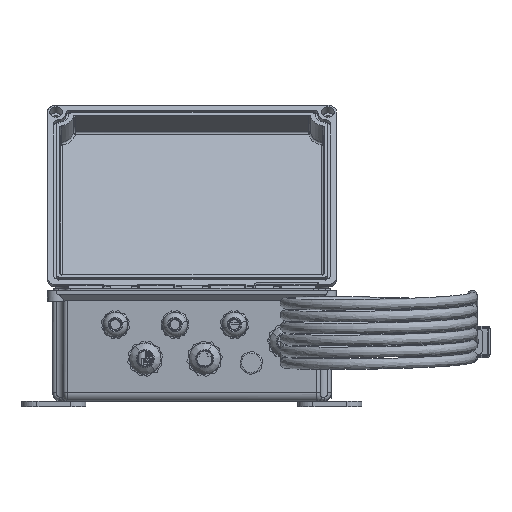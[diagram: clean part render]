
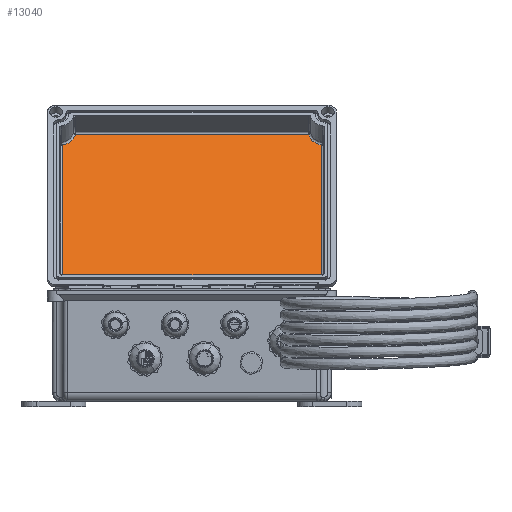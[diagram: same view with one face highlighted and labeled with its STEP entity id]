
A CAD part, top view. The second image highlights one B-rep face of the part: STEP entity #13040.
In plain terms, the highlighted planar face has unit normal (0, 0.582, 0.813).
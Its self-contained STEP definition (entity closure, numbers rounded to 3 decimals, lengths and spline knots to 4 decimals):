
#257 = CARTESIAN_POINT ( 'NONE',  ( 3.6871, 4.338, -7.6753 ) ) ;
#686 = CARTESIAN_POINT ( 'NONE',  ( 3.5272, 4.4469, -7.7533 ) ) ;
#1539 = CARTESIAN_POINT ( 'NONE',  ( 3.4577, 4.5391, -7.8193 ) ) ;
#2728 = CARTESIAN_POINT ( 'NONE',  ( -3.4762, 4.5075, -7.7967 ) ) ;
#3153 = CARTESIAN_POINT ( 'NONE',  ( -3.5832, 4.3961, -7.7169 ) ) ;
#4692 = EDGE_CURVE ( 'NONE', #15485, #74184, #68699, .T. ) ;
#5520 = VERTEX_POINT ( 'NONE', #27702 ) ;
#7838 = CARTESIAN_POINT ( 'NONE',  ( -3.8285, 0.0335, -4.5933 ) ) ;
#8062 = ORIENTED_EDGE ( 'NONE', *, *, #25787, .T. ) ;
#9819 = CARTESIAN_POINT ( 'NONE',  ( 3.4407, 4.5748, -7.8448 ) ) ;
#12302 = CARTESIAN_POINT ( 'NONE',  ( -3.7681, 4.3062, -7.6525 ) ) ;
#13040 = ADVANCED_FACE ( 'NONE', ( #37672 ), #67138, .T. ) ;
#15485 = VERTEX_POINT ( 'NONE', #26759 ) ;
#17373 = LINE ( 'NONE', #125074, #73268 ) ;
#20608 = CARTESIAN_POINT ( 'NONE',  ( -3.4427, 4.5661, -7.8386 ) ) ;
#20988 = VERTEX_POINT ( 'NONE', #24119 ) ;
#21125 = CARTESIAN_POINT ( 'NONE',  ( 3.6949, 4.3346, -7.6729 ) ) ;
#23171 = CARTESIAN_POINT ( 'NONE',  ( -3.4769, 4.5065, -7.796 ) ) ;
#24119 = CARTESIAN_POINT ( 'NONE',  ( 3.8172, 4.2972, -7.6461 ) ) ;
#25787 = EDGE_CURVE ( 'NONE', #35075, #20988, #29750, .T. ) ;
#26759 = CARTESIAN_POINT ( 'NONE',  ( 3.4296, 4.6122, -7.8717 ) ) ;
#27682 = DIRECTION ( 'NONE',  ( 1., 0., 0. ) ) ;
#27702 = CARTESIAN_POINT ( 'NONE',  ( -3.8142, 4.2972, -7.6461 ) ) ;
#29750 = LINE ( 'NONE', #101439, #42176 ) ;
#30279 = CARTESIAN_POINT ( 'NONE',  ( 3.8172, 4.2972, -7.6461 ) ) ;
#30618 = CARTESIAN_POINT ( 'NONE',  ( -3.4322, 4.5935, -7.8582 ) ) ;
#32298 = CARTESIAN_POINT ( 'NONE',  ( -3.6774, 4.3411, -7.6775 ) ) ;
#33146 = CARTESIAN_POINT ( 'NONE',  ( -3.6109, 4.3765, -7.7029 ) ) ;
#35075 = VERTEX_POINT ( 'NONE', #118304 ) ;
#35358 = DIRECTION ( 'NONE',  ( 0., -0.813, 0.582 ) ) ;
#35929 = ORIENTED_EDGE ( 'NONE', *, *, #4692, .T. ) ;
#37672 = FACE_OUTER_BOUND ( 'NONE', #48149, .T. ) ;
#40980 = CARTESIAN_POINT ( 'NONE',  ( -3.4748, 4.5096, -7.7982 ) ) ;
#41063 = CARTESIAN_POINT ( 'NONE',  ( 3.691, 4.3363, -7.6741 ) ) ;
#42176 = VECTOR ( 'NONE', #52040, 39.3701 ) ;
#43503 = B_SPLINE_CURVE_WITH_KNOTS ( 'NONE', 3,
 ( #30279, #119528, #109157, #90964, #90093, #21125, #41063, #120827, #257, #110014, #69286, #61010, #686, #110422, #50623, #119966, #119121, #70587, #59734, #1539, #9819, #79246 ),
 .UNSPECIFIED., .F., .F.,
 ( 4, 1, 1, 1, 1, 2, 2, 2, 1, 1, 1, 1, 2, 2, 4 ),
 ( 0., 0.125, 0.1875, 0.2188, 0.2344, 0.2422, 0.25, 0.5, 0.625, 0.6875, 0.7188, 0.7344, 0.7422, 0.75, 1. ),
 .UNSPECIFIED. ) ;
#45416 = EDGE_CURVE ( 'NONE', #20988, #15485, #43503, .T. ) ;
#47764 = B_SPLINE_CURVE_WITH_KNOTS ( 'NONE', 3,
 ( #99538, #30618, #20608, #61353, #71350, #99965, #40980, #2728, #23171, #92569, #53111, #3153, #33146, #101658, #71762, #112030, #32298, #102079, #52694, #122008, #12302, #102506 ),
 .UNSPECIFIED., .F., .F.,
 ( 4, 1, 1, 1, 1, 2, 2, 2, 1, 1, 1, 1, 2, 2, 4 ),
 ( 0., 0.125, 0.1875, 0.2188, 0.2344, 0.2422, 0.25, 0.5, 0.625, 0.6875, 0.7188, 0.7344, 0.7422, 0.75, 1. ),
 .UNSPECIFIED. ) ;
#47995 = ORIENTED_EDGE ( 'NONE', *, *, #97864, .T. ) ;
#48149 = EDGE_LOOP ( 'NONE', ( #66994, #35929, #103445, #50612, #47995, #8062 ) ) ;
#49209 = DIRECTION ( 'NONE',  ( -1., 0., 0. ) ) ;
#50495 = CARTESIAN_POINT ( 'NONE',  ( -3.8285, 4.6122, -7.8717 ) ) ;
#50612 = ORIENTED_EDGE ( 'NONE', *, *, #127296, .T. ) ;
#50623 = CARTESIAN_POINT ( 'NONE',  ( 3.4914, 4.4902, -7.7843 ) ) ;
#52040 = DIRECTION ( 'NONE',  ( 0., 0.813, -0.582 ) ) ;
#52694 = CARTESIAN_POINT ( 'NONE',  ( -3.6815, 4.3392, -7.6762 ) ) ;
#53111 = CARTESIAN_POINT ( 'NONE',  ( -3.5309, 4.4386, -7.7473 ) ) ;
#55976 = EDGE_CURVE ( 'NONE', #74184, #5520, #47764, .T. ) ;
#55981 = CARTESIAN_POINT ( 'NONE',  ( -3.4266, 4.6122, -7.8717 ) ) ;
#57151 = DIRECTION ( 'NONE',  ( 0., 0.582, 0.813 ) ) ;
#59734 = CARTESIAN_POINT ( 'NONE',  ( 3.4814, 4.5043, -7.7944 ) ) ;
#61010 = CARTESIAN_POINT ( 'NONE',  ( 3.5513, 4.4244, -7.7372 ) ) ;
#61353 = CARTESIAN_POINT ( 'NONE',  ( -3.4589, 4.5353, -7.8166 ) ) ;
#62449 = VECTOR ( 'NONE', #49209, 39.3701 ) ;
#66994 = ORIENTED_EDGE ( 'NONE', *, *, #45416, .T. ) ;
#67138 = PLANE ( 'NONE',  #98178 ) ;
#68699 = LINE ( 'NONE', #50495, #62449 ) ;
#69286 = CARTESIAN_POINT ( 'NONE',  ( 3.6036, 4.3819, -7.7068 ) ) ;
#70587 = CARTESIAN_POINT ( 'NONE',  ( 3.4822, 4.5032, -7.7936 ) ) ;
#71350 = CARTESIAN_POINT ( 'NONE',  ( -3.4679, 4.5203, -7.8058 ) ) ;
#71762 = CARTESIAN_POINT ( 'NONE',  ( -3.6641, 4.3474, -7.682 ) ) ;
#73268 = VECTOR ( 'NONE', #35358, 39.3701 ) ;
#74184 = VERTEX_POINT ( 'NONE', #55981 ) ;
#76050 = LINE ( 'NONE', #7838, #111851 ) ;
#79246 = CARTESIAN_POINT ( 'NONE',  ( 3.4296, 4.6122, -7.8717 ) ) ;
#90093 = CARTESIAN_POINT ( 'NONE',  ( 3.7041, 4.3307, -7.6701 ) ) ;
#90964 = CARTESIAN_POINT ( 'NONE',  ( 3.7226, 4.3234, -7.6648 ) ) ;
#92569 = CARTESIAN_POINT ( 'NONE',  ( -3.5015, 4.4703, -7.7701 ) ) ;
#96931 = VERTEX_POINT ( 'NONE', #109158 ) ;
#97864 = EDGE_CURVE ( 'NONE', #96931, #35075, #76050, .T. ) ;
#98178 = AXIS2_PLACEMENT_3D ( 'NONE', #116524, #57151, #27682 ) ;
#99538 = CARTESIAN_POINT ( 'NONE',  ( -3.4266, 4.6122, -7.8717 ) ) ;
#99965 = CARTESIAN_POINT ( 'NONE',  ( -3.4727, 4.5128, -7.8005 ) ) ;
#101439 = CARTESIAN_POINT ( 'NONE',  ( 3.8172, 0.0219, -4.585 ) ) ;
#101658 = CARTESIAN_POINT ( 'NONE',  ( -3.6459, 4.3566, -7.6886 ) ) ;
#102079 = CARTESIAN_POINT ( 'NONE',  ( -3.6801, 4.3399, -7.6766 ) ) ;
#102506 = CARTESIAN_POINT ( 'NONE',  ( -3.8142, 4.2972, -7.6461 ) ) ;
#103445 = ORIENTED_EDGE ( 'NONE', *, *, #55976, .T. ) ;
#107586 = DIRECTION ( 'NONE',  ( 1., 0., 0. ) ) ;
#109157 = CARTESIAN_POINT ( 'NONE',  ( 3.7604, 4.3102, -7.6554 ) ) ;
#109158 = CARTESIAN_POINT ( 'NONE',  ( -3.8142, 0.0335, -4.5933 ) ) ;
#110014 = CARTESIAN_POINT ( 'NONE',  ( 3.6426, 4.358, -7.6896 ) ) ;
#110422 = CARTESIAN_POINT ( 'NONE',  ( 3.5027, 4.4754, -7.7737 ) ) ;
#111851 = VECTOR ( 'NONE', #107586, 39.3701 ) ;
#112030 = CARTESIAN_POINT ( 'NONE',  ( -3.6734, 4.3429, -7.6788 ) ) ;
#116524 = CARTESIAN_POINT ( 'NONE',  ( -3.8285, 0.0219, -4.585 ) ) ;
#118304 = CARTESIAN_POINT ( 'NONE',  ( 3.8172, 0.0335, -4.5933 ) ) ;
#119121 = CARTESIAN_POINT ( 'NONE',  ( 3.4837, 4.501, -7.792 ) ) ;
#119528 = CARTESIAN_POINT ( 'NONE',  ( 3.7941, 4.3017, -7.6493 ) ) ;
#119966 = CARTESIAN_POINT ( 'NONE',  ( 3.486, 4.4978, -7.7897 ) ) ;
#120827 = CARTESIAN_POINT ( 'NONE',  ( 3.6884, 4.3375, -7.6749 ) ) ;
#122008 = CARTESIAN_POINT ( 'NONE',  ( -3.7243, 4.32, -7.6624 ) ) ;
#125074 = CARTESIAN_POINT ( 'NONE',  ( -3.8142, 0.0219, -4.585 ) ) ;
#127296 = EDGE_CURVE ( 'NONE', #5520, #96931, #17373, .T. ) ;
